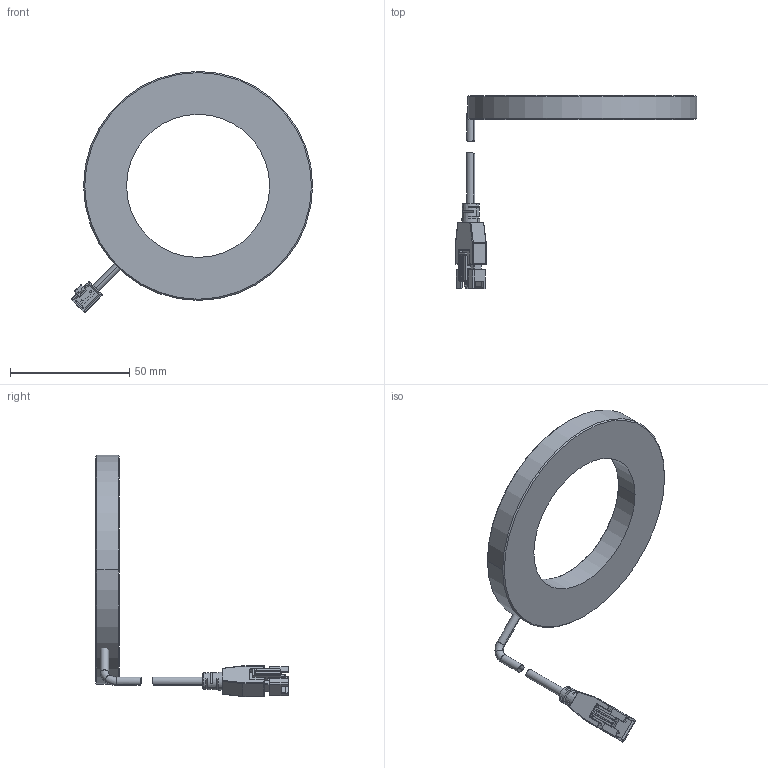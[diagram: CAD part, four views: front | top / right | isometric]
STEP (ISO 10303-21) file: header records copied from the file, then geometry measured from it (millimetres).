
FILE_DESCRIPTION((''),'2;1');
FILE_NAME('MV-LRDS-96-0_ASM','2019-09-19T',('rs-zhongwm'),(''),'PRO/ENGINEER BY PARAMETRIC TECHNOLOGY CORPORATION, 2010100','PRO/ENGINEER BY PARAMETRIC TECHNOLOGY CORPORATION, 2010100','');
FILE_SCHEMA(('CONFIG_CONTROL_DESIGN'));
Length unit declared in the file: millimetre
Products named in the file (5): PRT0033; PRT0034; PRT0035; ASM0021_ASM; MV-LRDS-96-0_ASM
Assembly tree (4 placements, depth 3):
  MV-LRDS-96-0_ASM
    PRT0033
    ASM0021_ASM
      PRT0034
      PRT0035
Bounding box: 101.12 x 80.8 x 101.12 mm (x, y, z)
Volume: 46427.5 mm3; surface area: 16280.5 mm2
Topology: 3 solids, 7 shells, 262 faces, 670 edges, 415 vertices
Faces by surface type: plane 133, cylinder 85, cone 16, torus 12, bspline 8, sphere 8
Entity records: 8185 total; most frequent: CARTESIAN_POINT 1745, DIRECTION 1352, ORIENTED_EDGE 1292, EDGE_CURVE 654, AXIS2_PLACEMENT_3D 477, VERTEX_POINT 415, VECTOR 398, LINE 398
